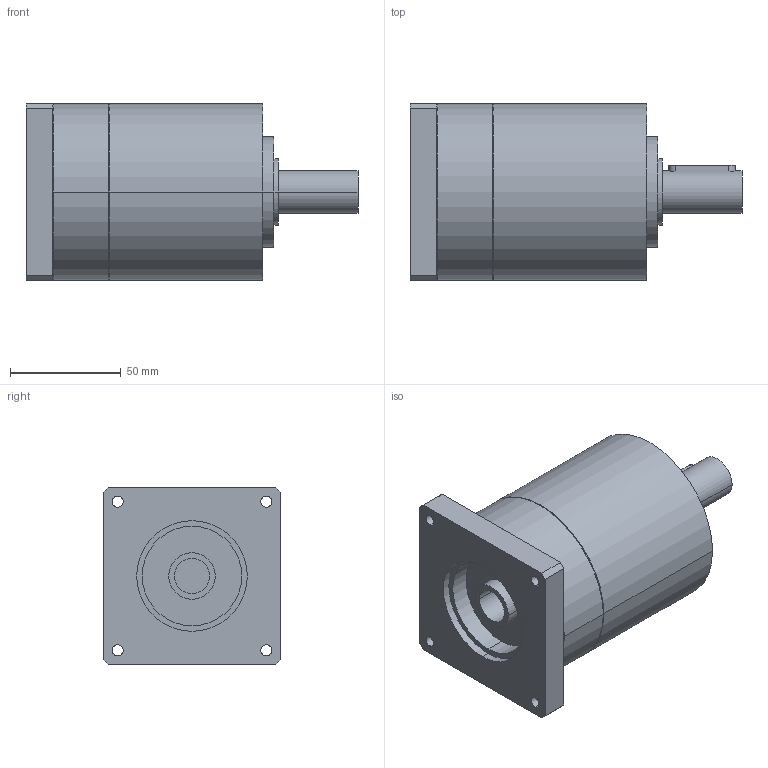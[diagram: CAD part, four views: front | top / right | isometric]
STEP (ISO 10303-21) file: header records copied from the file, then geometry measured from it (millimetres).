
FILE_DESCRIPTION(('CoCreate Modeling STEP Export'),'2;1');
FILE_NAME('GPR100_ig-3-4-5-6_19_B14_15.87_P21.stp','2014-08-26T10:07:49',(''),(''),'CoCreate Modeling STEP processor for AP214 (Solid Model)','CoCreate Modeling 16.00C 25-Feb-2009 (C) Parametric Technology GmbH','');
FILE_SCHEMA(('AUTOMOTIVE_DESIGN { 1 0 10303 214 1 1 1 1 }'));
Length unit declared in the file: millimetre
Products named in the file (2): GPR100_ig-3-4-5-6_19_B14_15.87_P21
Assembly tree (1 placements, depth 2):
  GPR100_ig-3-4-5-6_19_B14_15.87_P21
    GPR100_ig-3-4-5-6_19_B14_15.87_P21
Bounding box: 150 x 80 x 80 mm (x, y, z)
Volume: 547537.4 mm3; surface area: 50060.7 mm2
Topology: 1 solids, 1 shells, 70 faces, 184 edges, 128 vertices
Faces by surface type: cylinder 42, plane 22, cone 6
Entity records: 1919 total; most frequent: ORIENTED_EDGE 364, CARTESIAN_POINT 356, DIRECTION 262, EDGE_CURVE 182, VERTEX_POINT 128, AXIS2_PLACEMENT_3D 98, EDGE_LOOP 92, FACE_OUTER_BOUND 70
